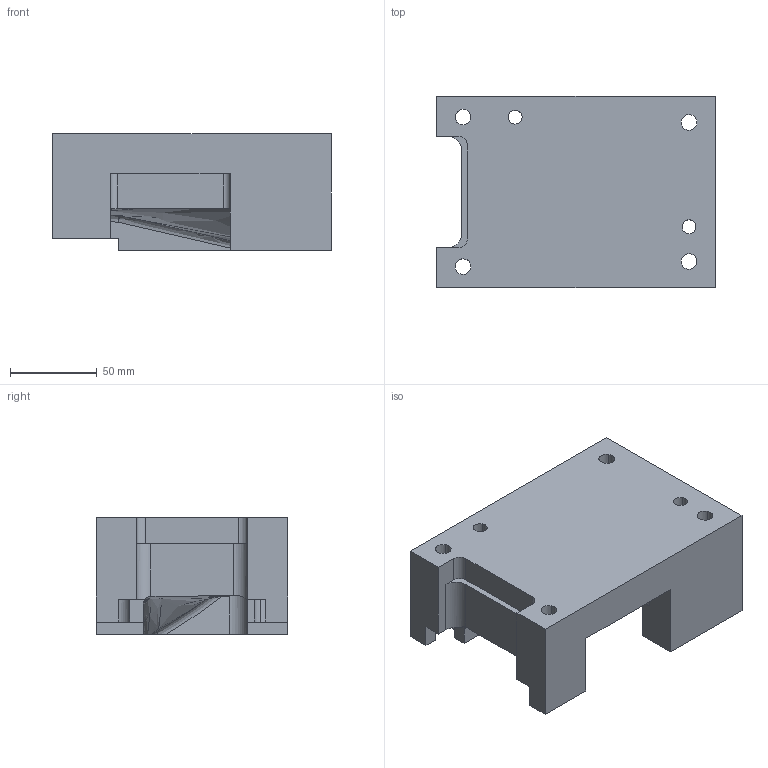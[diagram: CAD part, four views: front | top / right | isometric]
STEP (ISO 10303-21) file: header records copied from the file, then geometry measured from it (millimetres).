
FILE_DESCRIPTION(('CATIA V5 STEP Exchange','CAx-IF Rec.Pracs.--- Model Styling and Organization---1.5--- 2016-08-15','CAx-IF Rec.Pracs.---Supplemental Geometry---1.0---2011-11-01','CAx-IF Rec.Pracs.--- Composite Materials ---1.1---2010-07-15','CAx-IF Rec.Pracs.---External References---2.1---2005-01-19'),'2;1');
FILE_NAME('E:\WAT\Sprezarka\121_00_00_Tlocznik1\Tlocznik1_KPL\Tlocznik1_stp\121_01_01_Matryca1.stp','2023-08-01T08:49:43+00:00',('none'),('none'),'CATIA Version 5-6 Release 2022 SP3','CATIA V5 STEP AP214 v2','none');
FILE_SCHEMA(('AUTOMOTIVE_DESIGN { 1 0 10303 214 1 1 1 1 }'));
Length unit declared in the file: millimetre
Products named in the file (1): 121_01_01_Matryca1
Bounding box: 160 x 110 x 67 mm (x, y, z)
Volume: 854283.2 mm3; surface area: 85163.3 mm2
Topology: 1 solids, 1 shells, 94 faces, 257 edges, 167 vertices
Faces by surface type: plane 35, bspline 31, cylinder 28
Entity records: 6749 total; most frequent: CARTESIAN_POINT 4582, ORIENTED_EDGE 514, EDGE_CURVE 257, DIRECTION 253, VERTEX_POINT 167, EDGE_LOOP 108, VECTOR 105, LINE 105
